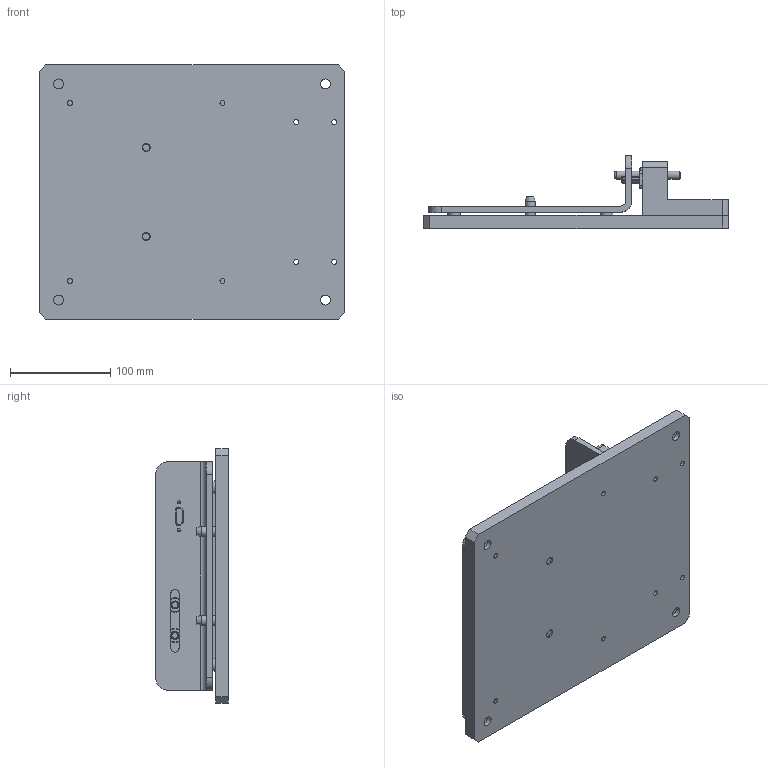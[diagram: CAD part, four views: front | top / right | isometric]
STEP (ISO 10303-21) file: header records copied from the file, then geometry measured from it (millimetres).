
FILE_DESCRIPTION (( 'STEP AP203' ), '1' );
FILE_NAME ('Sample_Assembly.STEP', '2025-08-26T18:47:27', ( '' ), ( '' ), 'SwSTEP 2.0', 'SolidWorks 2024', '' );
FILE_SCHEMA (( 'CONFIG_CONTROL_DESIGN' ));
Length unit declared in the file: inch
Products named in the file (1): Sample_Assembly
Bounding box: 304.8 x 72.67 x 254 mm (x, y, z)
Volume: 1712623.4 mm3; surface area: 361661.3 mm2
Topology: 12 solids, 12 shells, 240 faces, 524 edges, 340 vertices
Faces by surface type: plane 112, cylinder 106, cone 22
Full cylindrical faces by diameter (mm): 2.5 x2, 3.3 x2, 3.4 x2, 4.2 x4, 5 x8, 5.08 x4, 5.994 x4, 6.5 x2, 6.6 x4, 7 x2, 7.01 x2, 7.976 x4, 7.996 x2, 8 x2, 9 x2, 10 x6, 11 x4, 12.7 x4, 14.097 x2, 14.32 x2, 15 x4
Entity records: 6363 total; most frequent: DIRECTION 1152, CARTESIAN_POINT 1017, ORIENTED_EDGE 876, AXIS2_PLACEMENT_3D 473, EDGE_CURVE 438, EDGE_LOOP 420, VERTEX_POINT 338, FACE_OUTER_BOUND 308
